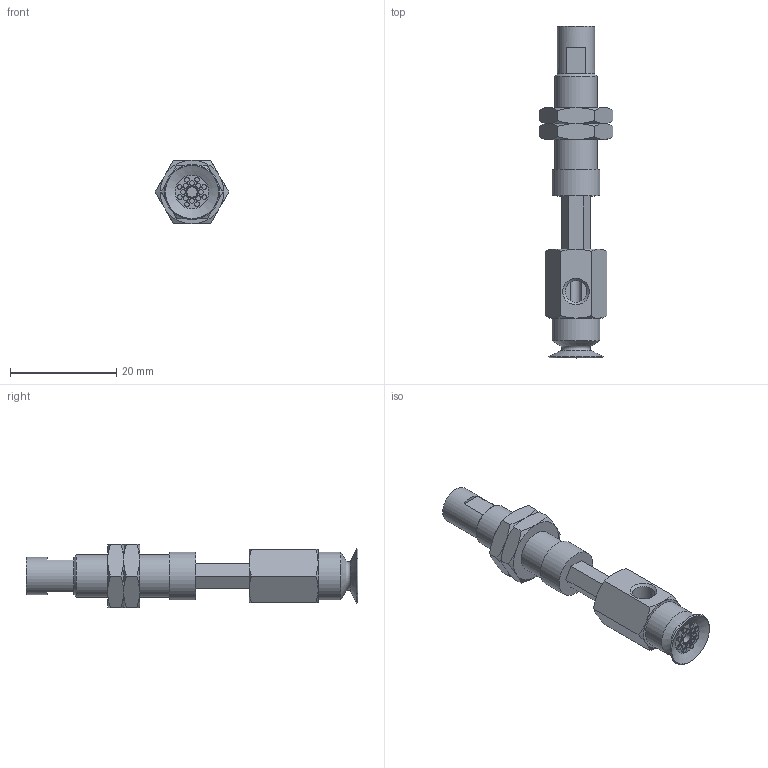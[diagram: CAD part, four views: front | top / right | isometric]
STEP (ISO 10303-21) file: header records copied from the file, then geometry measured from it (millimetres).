
FILE_DESCRIPTION(('STEP AP203'),'1');
FILE_NAME('.stp','2025-03-13T02:49:03',(' '),(' '),'Spatial InterOp 3D',' ',' ');
FILE_SCHEMA(('CONFIG_CONTROL_DESIGN'));
Length unit declared in the file: millimetre
Products named in the file (6): BNABPAYH-10A-10-※; NAPATH-10A-10--M; NAPATH-10A-10--F; Nut-10A-S; CONNECTOR-10A-10-PA; BPAG-10A-※
Assembly tree (6 placements, depth 2):
  BNABPAYH-10A-10-※
    NAPATH-10A-10--M
    NAPATH-10A-10--F
    Nut-10A-S  x2
    CONNECTOR-10A-10-PA
    BPAG-10A-※
Bounding box: 13.86 x 62.5 x 12 mm (x, y, z)
Volume: 3495.7 mm3; surface area: 4268.3 mm2
Topology: 6 solids, 6 shells, 171 faces, 349 edges, 215 vertices
Faces by surface type: plane 79, cone 51, cylinder 31, torus 10
Full cylindrical faces by diameter (mm): 0.9 x16, 2 x2, 4 x2, 4.134 x2, 5 x1, 6 x2, 7 x1, 7.188 x2, 8 x1, 9 x2
Entity records: 4084 total; most frequent: CARTESIAN_POINT 923, DIRECTION 608, ORIENTED_EDGE 482, AXIS2_PLACEMENT_3D 266, EDGE_CURVE 241, EDGE_LOOP 234, FACE_OUTER_BOUND 188, VERTEX_POINT 179
